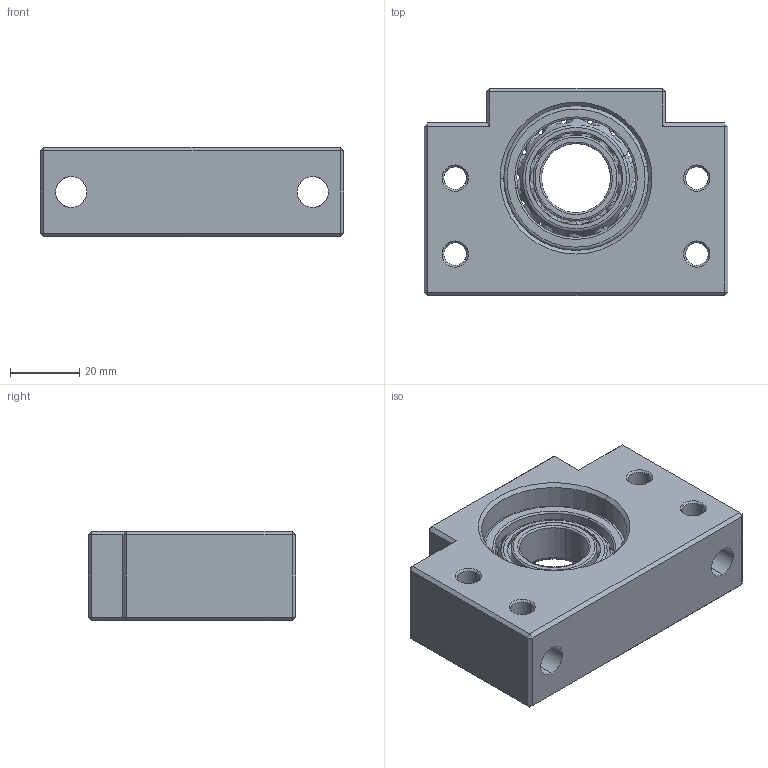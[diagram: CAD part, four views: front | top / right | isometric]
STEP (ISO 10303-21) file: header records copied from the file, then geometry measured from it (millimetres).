
FILE_DESCRIPTION (( 'STEP AP203' ), '1' );
FILE_NAME ('BF20²Õ¦X¥ó.STEP', '2017-12-27T08:16:44', ( '' ), ( '' ), 'SwSTEP 2.0', 'SolidWorks 2017', '' );
FILE_SCHEMA (( 'CONFIG_CONTROL_DESIGN' ));
Length unit declared in the file: millimetre
Products named in the file (1): BF20組合件
Bounding box: 88 x 60 x 26 mm (x, y, z)
Surface area: 28697.7 mm2 (no closed solid volume)
Topology: 0 solids, 18 shells, 188 faces, 560 edges, 354 vertices
Faces by surface type: cylinder 54, plane 52, torus 28, sphere 28, cone 26
Entity records: 7817 total; most frequent: CARTESIAN_POINT 3189, DIRECTION 956, ORIENTED_EDGE 921, EDGE_CURVE 490, AXIS2_PLACEMENT_3D 391, VERTEX_POINT 312, EDGE_LOOP 210, CIRCLE 202
